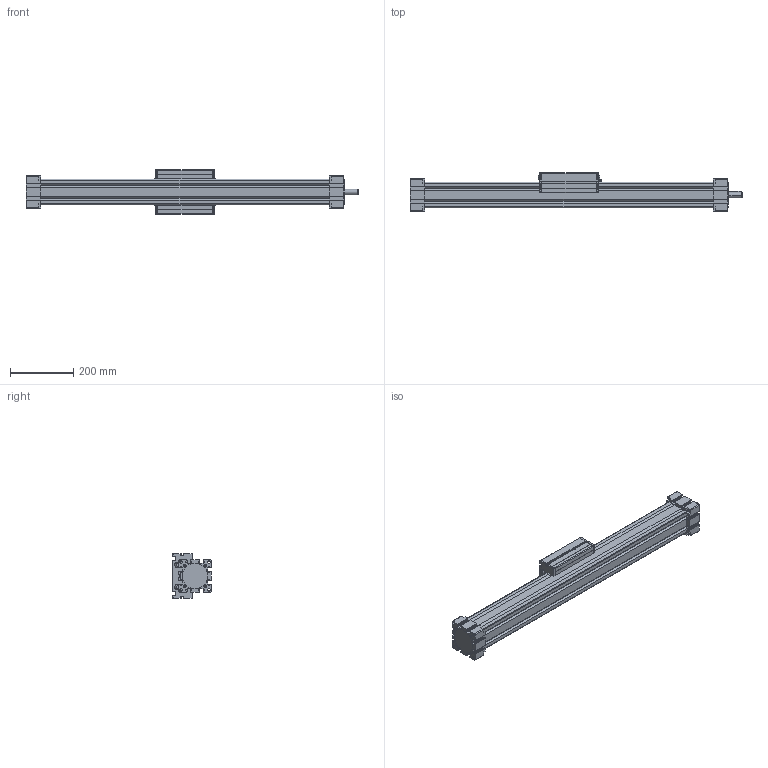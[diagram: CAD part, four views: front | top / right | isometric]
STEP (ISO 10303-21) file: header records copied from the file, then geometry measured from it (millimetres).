
FILE_DESCRIPTION (( 'STEP AP214' ), '1' );
FILE_NAME ('EGTK-80.STEP', '2016-01-14T08:02:15', ( 'admin' ), ( '' ), 'SwSTEP 2.0', 'SolidWorks 2015', '' );
FILE_SCHEMA (( 'AUTOMOTIVE_DESIGN' ));
Length unit declared in the file: millimetre
Products named in the file (6): Kopie von Bahr-EGT-EGK-EGT-80  1  0 0 0  0 0 0  787  Q=194_EGTK End Block 80 (A)^EGT(K)80 S0 A0_EGTK-80 End Block 0-2; EGTK-80; Kopie von Bahr-EGT-EGK-EGT-80  1  0 0 0  0 0 0  787  Q=194_Cover Band^EGT(K)80 S0 A0; Kopie von Bahr-EGT-EGK-EGT-80  1  0 0 0  0 0 0  787  Q=194_EG80 Carriage^EGT(K)80 S0 A0_A; Kopie von Bahr-EGT-EGK-EGT-80  1  0 0 0  0 0 0  787  Q=194_EGTK End Block 80 (B)^EGT(K)80 S0 A0_EGTK-80 End Block 0-0; Kopie von Bahr-EGT-EGK-EGT-80  1  0 0 0  0 0 0  787  Q=194_EG80 Extrusion^EGT(K)80 S0 A0
Assembly tree (5 placements, depth 2):
  EGTK-80
    Kopie von Bahr-EGT-EGK-EGT-80  1  0 0 0  0 0 0  787  Q=194_EGTK End Block 80 (A)^EGT(K)80 S0 A0_EGTK-80 End Block 0-2
    Kopie von Bahr-EGT-EGK-EGT-80  1  0 0 0  0 0 0  787  Q=194_EG80 Extrusion^EGT(K)80 S0 A0
    Kopie von Bahr-EGT-EGK-EGT-80  1  0 0 0  0 0 0  787  Q=194_EGTK End Block 80 (B)^EGT(K)80 S0 A0_EGTK-80 End Block 0-0
    Kopie von Bahr-EGT-EGK-EGT-80  1  0 0 0  0 0 0  787  Q=194_EG80 Carriage^EGT(K)80 S0 A0_A
    Kopie von Bahr-EGT-EGK-EGT-80  1  0 0 0  0 0 0  787  Q=194_Cover Band^EGT(K)80 S0 A0
Bounding box: 1046 x 121 x 140 mm (x, y, z)
Volume: 7089960.8 mm3; surface area: 663002.3 mm2
Topology: 7 solids, 8 shells, 1017 faces, 2778 edges, 1812 vertices
Faces by surface type: plane 736, cylinder 210, cone 33, torus 28, sphere 10
Entity records: 33319 total; most frequent: CARTESIAN_POINT 5757, ORIENTED_EDGE 5532, DIRECTION 5293, EDGE_CURVE 2766, LINE 2257, VECTOR 2257, VERTEX_POINT 1810, AXIS2_PLACEMENT_3D 1518
